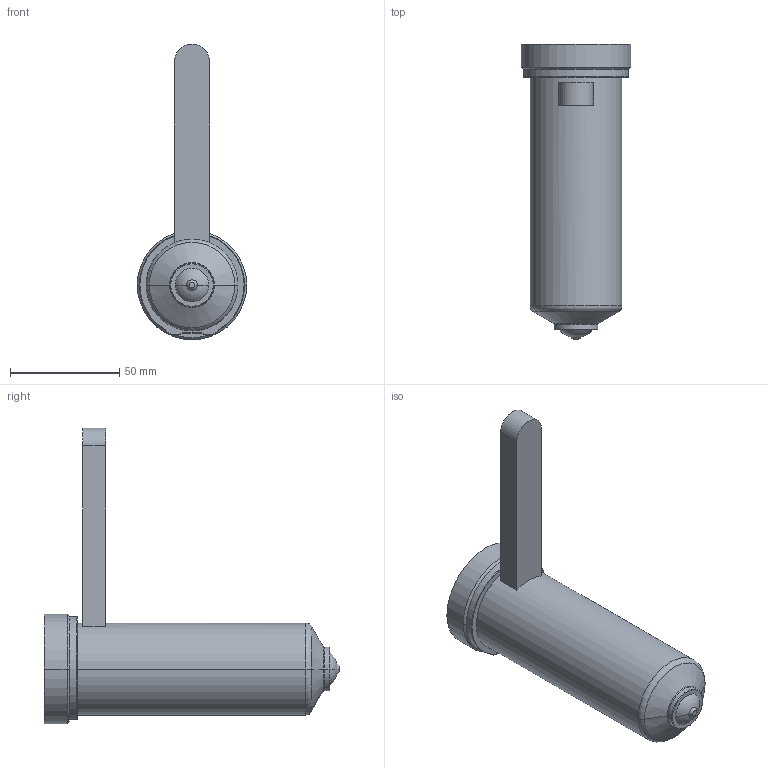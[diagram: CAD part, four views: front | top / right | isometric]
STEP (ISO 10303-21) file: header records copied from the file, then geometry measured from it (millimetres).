
FILE_DESCRIPTION((''),'2;1');
FILE_NAME('EO16_PG-BL_STD_120_COT','2024-02-19T11:16:55',('sundharh'),(''),'CREO PARAMETRIC BY PTC INC, 2023154','CREO PARAMETRIC BY PTC INC, 2023154','');
FILE_SCHEMA(('CONFIG_CONTROL_DESIGN'));
Length unit declared in the file: millimetre
Products named in the file (1): EO16_PG-BL_STD_120_COT
Bounding box: 50 x 135 x 135 mm (x, y, z)
Volume: 196929.2 mm3; surface area: 25148.1 mm2
Topology: 1 solids, 1 shells, 40 faces, 85 edges, 50 vertices
Faces by surface type: cylinder 13, plane 10, torus 9, cone 6, sphere 2
Entity records: 1201 total; most frequent: CARTESIAN_POINT 271, DIRECTION 209, ORIENTED_EDGE 170, AXIS2_PLACEMENT_3D 90, EDGE_CURVE 85, VERTEX_POINT 50, CIRCLE 50, EDGE_LOOP 43
